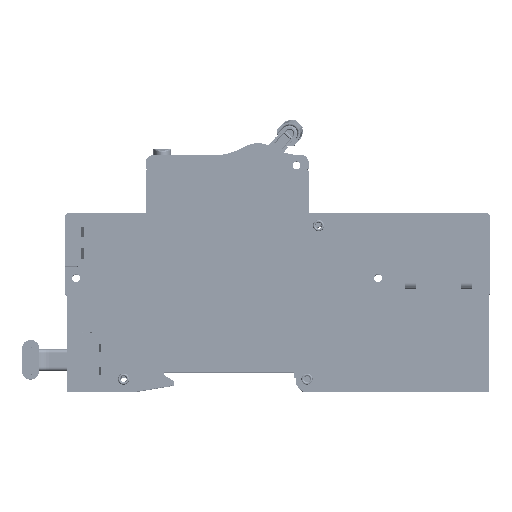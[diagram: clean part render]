
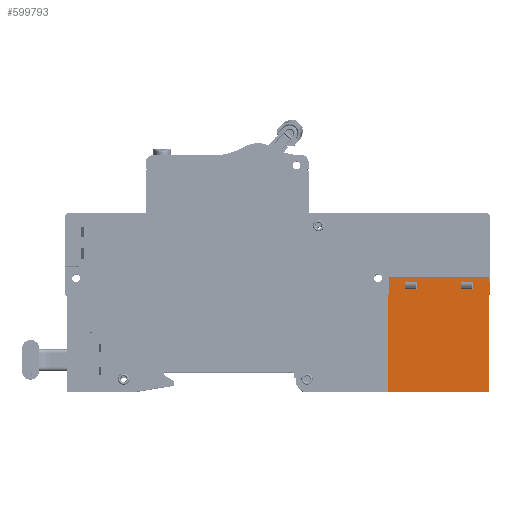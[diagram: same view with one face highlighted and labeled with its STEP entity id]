
A CAD part, top view. The second image highlights one B-rep face of the part: STEP entity #599793.
In plain terms, the highlighted planar face has unit normal (0, 0, 1).
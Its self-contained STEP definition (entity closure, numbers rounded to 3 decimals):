
#303 = EDGE_CURVE ( 'NONE', #81208, #226313, #479789, .T. ) ;
#5729 = EDGE_LOOP ( 'NONE', ( #271798, #698061, #389122, #312613 ) ) ;
#7107 = ORIENTED_EDGE ( 'NONE', *, *, #339923, .F. ) ;
#8000 = LINE ( 'NONE', #547532, #35352 ) ;
#17425 = VECTOR ( 'NONE', #679210, 1000. ) ;
#18339 = EDGE_CURVE ( 'NONE', #722030, #119686, #378679, .T. ) ;
#19686 = EDGE_CURVE ( 'NONE', #628979, #334219, #338912, .T. ) ;
#20912 = ORIENTED_EDGE ( 'NONE', *, *, #240685, .T. ) ;
#24260 = DIRECTION ( 'NONE',  ( 0., 1., 0. ) ) ;
#25783 = DIRECTION ( 'NONE',  ( 0., -1., 0. ) ) ;
#35352 = VECTOR ( 'NONE', #653359, 1000. ) ;
#37082 = CARTESIAN_POINT ( 'NONE',  ( 69.898, -5.671, 133.364 ) ) ;
#43176 = LINE ( 'NONE', #733640, #744497 ) ;
#53718 = CARTESIAN_POINT ( 'NONE',  ( 70.098, -9.071, 133.364 ) ) ;
#54195 = EDGE_LOOP ( 'NONE', ( #762692, #7107, #422864, #468111 ) ) ;
#55989 = VECTOR ( 'NONE', #80877, 1000. ) ;
#67226 = VECTOR ( 'NONE', #374539, 1000. ) ;
#68701 = CARTESIAN_POINT ( 'NONE',  ( 46.598, -7.771, 133.364 ) ) ;
#72714 = LINE ( 'NONE', #271774, #17425 ) ;
#78013 = CARTESIAN_POINT ( 'NONE',  ( 47.148, -5.871, 133.364 ) ) ;
#80877 = DIRECTION ( 'NONE',  ( 1., 0., 0. ) ) ;
#81208 = VERTEX_POINT ( 'NONE', #53718 ) ;
#85217 = CARTESIAN_POINT ( 'NONE',  ( 42.198, -9.071, 133.364 ) ) ;
#94115 = DIRECTION ( 'NONE',  ( 0., -1., 0. ) ) ;
#98202 = AXIS2_PLACEMENT_3D ( 'NONE', #501531, #375163, #444725 ) ;
#100649 = EDGE_CURVE ( 'NONE', #334219, #160146, #567654, .T. ) ;
#109667 = CARTESIAN_POINT ( 'NONE',  ( 69.198, -4.971, 133.364 ) ) ;
#113577 = CARTESIAN_POINT ( 'NONE',  ( 41.798, -36.071, 133.364 ) ) ;
#119686 = VERTEX_POINT ( 'NONE', #629378 ) ;
#120386 = DIRECTION ( 'NONE',  ( -0.707, -0.707, 0. ) ) ;
#123168 = CARTESIAN_POINT ( 'NONE',  ( 62.098, -7.771, 133.364 ) ) ;
#134405 = CARTESIAN_POINT ( 'NONE',  ( 42.198, -4.471, 133.364 ) ) ;
#138603 = LINE ( 'NONE', #68701, #747585 ) ;
#138830 = VERTEX_POINT ( 'NONE', #488817 ) ;
#141584 = CARTESIAN_POINT ( 'NONE',  ( 41.798, -30.671, 133.364 ) ) ;
#145522 = PLANE ( 'NONE',  #98202 ) ;
#160146 = VERTEX_POINT ( 'NONE', #113577 ) ;
#160748 = DIRECTION ( 'NONE',  ( 1., 0., 0. ) ) ;
#172201 = LINE ( 'NONE', #298338, #347583 ) ;
#181238 = ORIENTED_EDGE ( 'NONE', *, *, #758028, .T. ) ;
#182196 = ORIENTED_EDGE ( 'NONE', *, *, #19686, .F. ) ;
#184345 = CARTESIAN_POINT ( 'NONE',  ( 47.148, -7.771, 133.364 ) ) ;
#190569 = VERTEX_POINT ( 'NONE', #740857 ) ;
#194749 = VERTEX_POINT ( 'NONE', #123168 ) ;
#197095 = EDGE_CURVE ( 'NONE', #415013, #372986, #199931, .T. ) ;
#197635 = VECTOR ( 'NONE', #354465, 1000. ) ;
#199931 = LINE ( 'NONE', #539282, #504881 ) ;
#201285 = CARTESIAN_POINT ( 'NONE',  ( 69.698, -36.071, 133.364 ) ) ;
#201809 = VECTOR ( 'NONE', #392915, 1000. ) ;
#204835 = CARTESIAN_POINT ( 'NONE',  ( 41.798, -9.471, 133.364 ) ) ;
#205792 = EDGE_CURVE ( 'NONE', #190569, #528689, #529819, .T. ) ;
#211822 = VECTOR ( 'NONE', #24260, 1000. ) ;
#226313 = VERTEX_POINT ( 'NONE', #419440 ) ;
#237422 = FACE_BOUND ( 'NONE', #5729, .T. ) ;
#240685 = EDGE_CURVE ( 'NONE', #226313, #372986, #408098, .T. ) ;
#244590 = ORIENTED_EDGE ( 'NONE', *, *, #303, .T. ) ;
#249167 = DIRECTION ( 'NONE',  ( 0., -1., 0. ) ) ;
#250918 = ORIENTED_EDGE ( 'NONE', *, *, #472936, .F. ) ;
#254122 = DIRECTION ( 'NONE',  ( 0., -1., 0. ) ) ;
#264610 = VECTOR ( 'NONE', #369757, 1000. ) ;
#271774 = CARTESIAN_POINT ( 'NONE',  ( 49.798, -7.771, 133.364 ) ) ;
#271798 = ORIENTED_EDGE ( 'NONE', *, *, #481805, .F. ) ;
#286546 = ORIENTED_EDGE ( 'NONE', *, *, #197095, .F. ) ;
#289308 = EDGE_CURVE ( 'NONE', #528689, #194749, #43176, .T. ) ;
#297374 = CARTESIAN_POINT ( 'NONE',  ( 69.698, -9.471, 133.364 ) ) ;
#298338 = CARTESIAN_POINT ( 'NONE',  ( 52.223, -26.946, 133.364 ) ) ;
#309437 = CARTESIAN_POINT ( 'NONE',  ( 65.298, -7.771, 133.364 ) ) ;
#310456 = LINE ( 'NONE', #668766, #264610 ) ;
#312613 = ORIENTED_EDGE ( 'NONE', *, *, #760111, .F. ) ;
#315570 = EDGE_CURVE ( 'NONE', #81208, #628979, #172201, .T. ) ;
#317973 = CARTESIAN_POINT ( 'NONE',  ( 70.098, -30.671, 133.364 ) ) ;
#320274 = FACE_BOUND ( 'NONE', #54195, .T. ) ;
#334219 = VERTEX_POINT ( 'NONE', #517021 ) ;
#336140 = CARTESIAN_POINT ( 'NONE',  ( 49.798, -5.871, 133.364 ) ) ;
#338912 = LINE ( 'NONE', #385556, #523887 ) ;
#339923 = EDGE_CURVE ( 'NONE', #194749, #472235, #637498, .T. ) ;
#347583 = VECTOR ( 'NONE', #120386, 1000. ) ;
#354465 = DIRECTION ( 'NONE',  ( -1., 0., 0. ) ) ;
#362243 = VECTOR ( 'NONE', #584087, 1000. ) ;
#362997 = EDGE_CURVE ( 'NONE', #386234, #722030, #138603, .T. ) ;
#369757 = DIRECTION ( 'NONE',  ( 1., 0., 0. ) ) ;
#370102 = ORIENTED_EDGE ( 'NONE', *, *, #597745, .T. ) ;
#372986 = VERTEX_POINT ( 'NONE', #37082 ) ;
#374539 = DIRECTION ( 'NONE',  ( -1., 0., 0. ) ) ;
#375163 = DIRECTION ( 'NONE',  ( 0., 0., -1. ) ) ;
#378679 = LINE ( 'NONE', #184345, #55989 ) ;
#385556 = CARTESIAN_POINT ( 'NONE',  ( 69.698, -4.471, 133.364 ) ) ;
#386234 = VERTEX_POINT ( 'NONE', #492822 ) ;
#389122 = ORIENTED_EDGE ( 'NONE', *, *, #362997, .F. ) ;
#391167 = VERTEX_POINT ( 'NONE', #134405 ) ;
#392915 = DIRECTION ( 'NONE',  ( -0.707, -0.707, 0. ) ) ;
#408098 = LINE ( 'NONE', #109667, #362243 ) ;
#415013 = VERTEX_POINT ( 'NONE', #626535 ) ;
#419440 = CARTESIAN_POINT ( 'NONE',  ( 70.098, -5.871, 133.364 ) ) ;
#422864 = ORIENTED_EDGE ( 'NONE', *, *, #289308, .F. ) ;
#444725 = DIRECTION ( 'NONE',  ( 0., -1., 0. ) ) ;
#468111 = ORIENTED_EDGE ( 'NONE', *, *, #205792, .F. ) ;
#469302 = DIRECTION ( 'NONE',  ( 0., -1., 0. ) ) ;
#472235 = VERTEX_POINT ( 'NONE', #309437 ) ;
#472936 = EDGE_CURVE ( 'NONE', #391167, #415013, #310456, .T. ) ;
#479789 = LINE ( 'NONE', #317973, #211822 ) ;
#481805 = EDGE_CURVE ( 'NONE', #119686, #629930, #72714, .T. ) ;
#481930 = LINE ( 'NONE', #695963, #574305 ) ;
#488817 = CARTESIAN_POINT ( 'NONE',  ( 41.798, -9.471, 133.364 ) ) ;
#492822 = CARTESIAN_POINT ( 'NONE',  ( 46.598, -5.871, 133.364 ) ) ;
#501531 = CARTESIAN_POINT ( 'NONE',  ( 69.698, -4.471, 133.364 ) ) ;
#504881 = VECTOR ( 'NONE', #469302, 1000. ) ;
#514239 = FACE_OUTER_BOUND ( 'NONE', #687567, .T. ) ;
#517021 = CARTESIAN_POINT ( 'NONE',  ( 69.698, -36.071, 133.364 ) ) ;
#521787 = VECTOR ( 'NONE', #552001, 1000. ) ;
#523887 = VECTOR ( 'NONE', #94115, 1000. ) ;
#525701 = DIRECTION ( 'NONE',  ( 0., -1., 0. ) ) ;
#528689 = VERTEX_POINT ( 'NONE', #670923 ) ;
#529819 = LINE ( 'NONE', #586540, #197635 ) ;
#539173 = EDGE_CURVE ( 'NONE', #472235, #190569, #8000, .T. ) ;
#539282 = CARTESIAN_POINT ( 'NONE',  ( 69.898, -4.471, 133.364 ) ) ;
#540516 = ORIENTED_EDGE ( 'NONE', *, *, #580884, .T. ) ;
#547532 = CARTESIAN_POINT ( 'NONE',  ( 65.298, -7.771, 133.364 ) ) ;
#552001 = DIRECTION ( 'NONE',  ( -1., 0., 0. ) ) ;
#567654 = LINE ( 'NONE', #201285, #521787 ) ;
#568243 = CARTESIAN_POINT ( 'NONE',  ( 62.648, -7.771, 133.364 ) ) ;
#574305 = VECTOR ( 'NONE', #525701, 1000. ) ;
#580884 = EDGE_CURVE ( 'NONE', #745541, #138830, #662709, .T. ) ;
#584087 = DIRECTION ( 'NONE',  ( -0.707, 0.707, 0. ) ) ;
#586540 = CARTESIAN_POINT ( 'NONE',  ( 62.648, -5.871, 133.364 ) ) ;
#597745 = EDGE_CURVE ( 'NONE', #138830, #160146, #639726, .T. ) ;
#599793 = ADVANCED_FACE ( 'NONE', ( #320274, #237422, #514239 ), #145522, .F. ) ;
#626106 = ORIENTED_EDGE ( 'NONE', *, *, #315570, .F. ) ;
#626535 = CARTESIAN_POINT ( 'NONE',  ( 69.898, -4.471, 133.364 ) ) ;
#628979 = VERTEX_POINT ( 'NONE', #297374 ) ;
#629378 = CARTESIAN_POINT ( 'NONE',  ( 49.798, -7.771, 133.364 ) ) ;
#629930 = VERTEX_POINT ( 'NONE', #336140 ) ;
#630406 = LINE ( 'NONE', #78013, #67226 ) ;
#637498 = LINE ( 'NONE', #568243, #692904 ) ;
#639726 = LINE ( 'NONE', #141584, #695186 ) ;
#653359 = DIRECTION ( 'NONE',  ( 0., 1., 0. ) ) ;
#662709 = LINE ( 'NONE', #204835, #201809 ) ;
#668766 = CARTESIAN_POINT ( 'NONE',  ( 69.698, -4.471, 133.364 ) ) ;
#670923 = CARTESIAN_POINT ( 'NONE',  ( 62.098, -5.871, 133.364 ) ) ;
#679210 = DIRECTION ( 'NONE',  ( 0., 1., 0. ) ) ;
#687567 = EDGE_LOOP ( 'NONE', ( #244590, #20912, #286546, #250918, #181238, #540516, #370102, #694704, #182196, #626106 ) ) ;
#692904 = VECTOR ( 'NONE', #160748, 1000. ) ;
#694704 = ORIENTED_EDGE ( 'NONE', *, *, #100649, .F. ) ;
#695186 = VECTOR ( 'NONE', #25783, 1000. ) ;
#695963 = CARTESIAN_POINT ( 'NONE',  ( 42.198, -4.471, 133.364 ) ) ;
#698061 = ORIENTED_EDGE ( 'NONE', *, *, #18339, .F. ) ;
#722030 = VERTEX_POINT ( 'NONE', #726735 ) ;
#726735 = CARTESIAN_POINT ( 'NONE',  ( 46.598, -7.771, 133.364 ) ) ;
#733640 = CARTESIAN_POINT ( 'NONE',  ( 62.098, -7.771, 133.364 ) ) ;
#740857 = CARTESIAN_POINT ( 'NONE',  ( 65.298, -5.871, 133.364 ) ) ;
#744497 = VECTOR ( 'NONE', #254122, 1000. ) ;
#745541 = VERTEX_POINT ( 'NONE', #85217 ) ;
#747585 = VECTOR ( 'NONE', #249167, 1000. ) ;
#758028 = EDGE_CURVE ( 'NONE', #391167, #745541, #481930, .T. ) ;
#760111 = EDGE_CURVE ( 'NONE', #629930, #386234, #630406, .T. ) ;
#762692 = ORIENTED_EDGE ( 'NONE', *, *, #539173, .F. ) ;
